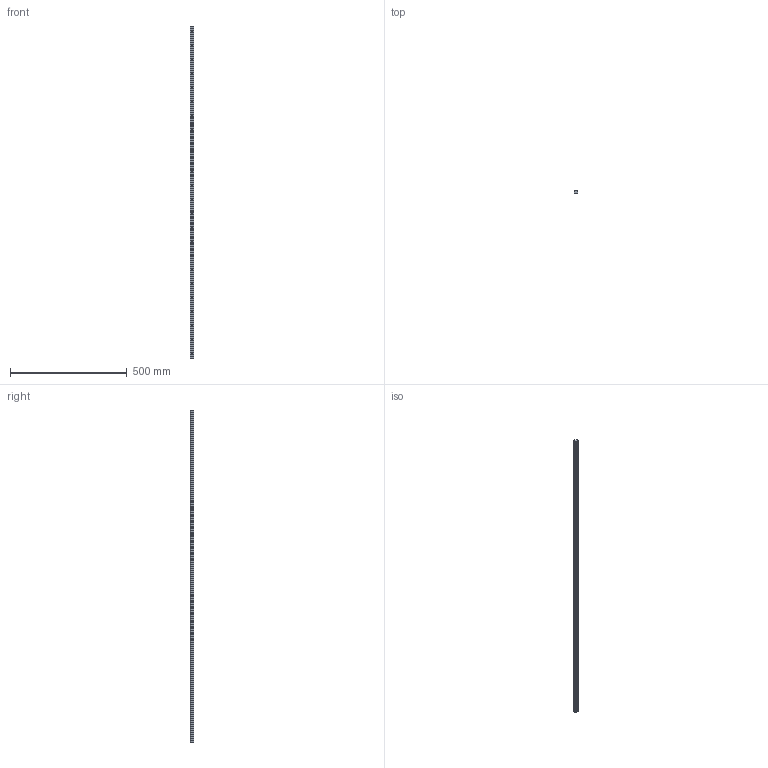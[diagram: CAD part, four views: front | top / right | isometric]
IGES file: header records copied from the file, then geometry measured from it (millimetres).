
Start section: SolidWorks IGES file using analytic representation for surfaces
Global section: file name: C:\Users\IanO\Desktop\L1016_v2\L1016.BL15_v2\L1016.BL15_v2_20190611_IGES\L1016.BL15-1420.igs; native system: SolidWorks 2017; preprocessor: SolidWorks 2017; author: IanO; date: 190612.122842; units: millimetre
Bounding box: 15 x 13 x 1420 mm (x, y, z)
Surface area: 86941.9 mm2 (no closed solid volume)
Topology: 0 solids, 0 shells, 146 faces, 3608 edges, 3608 vertices
Faces by surface type: revolution 100, bspline 46
